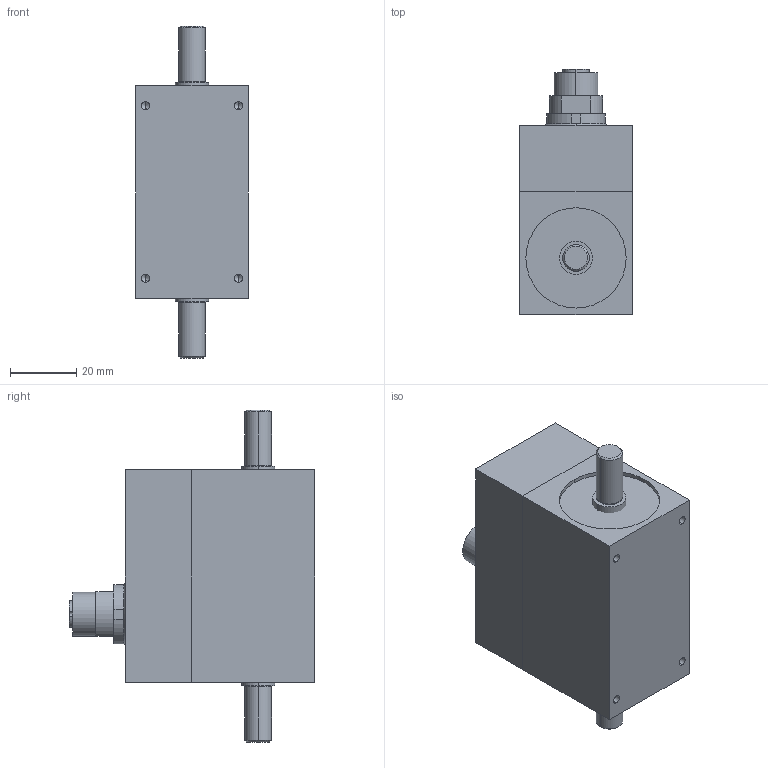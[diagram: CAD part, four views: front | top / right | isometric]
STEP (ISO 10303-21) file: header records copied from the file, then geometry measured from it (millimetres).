
FILE_DESCRIPTION (( 'STEP AP214' ), '1' );
FILE_NAME ('WTQ-2050×°Åä.STEP', '2021-03-26T01:59:19', ( '' ), ( '' ), 'SwSTEP 2.0', 'SolidWorks 2014', '' );
FILE_SCHEMA (( 'AUTOMOTIVE_DESIGN' ));
Length unit declared in the file: millimetre
Products named in the file (5): 瑤脣菁釱; 俋褲; 奻裔; WTQ-2050蚾饜; 粣
Assembly tree (4 placements, depth 2):
  WTQ-2050蚾饜
    粣
    奻裔
    俋褲
    瑤脣菁釱
Bounding box: 34 x 73.9 x 100 mm (x, y, z)
Volume: 127929.9 mm3; surface area: 28207.2 mm2
Topology: 4 solids, 4 shells, 222 faces, 519 edges, 330 vertices
Faces by surface type: cylinder 125, plane 73, cone 20, torus 4
Entity records: 6901 total; most frequent: DIRECTION 1217, CARTESIAN_POINT 1136, ORIENTED_EDGE 1006, EDGE_CURVE 503, AXIS2_PLACEMENT_3D 493, VERTEX_POINT 330, EDGE_LOOP 281, CIRCLE 264
